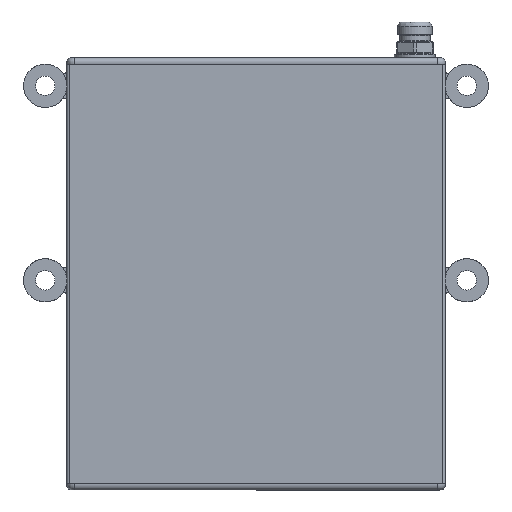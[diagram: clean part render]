
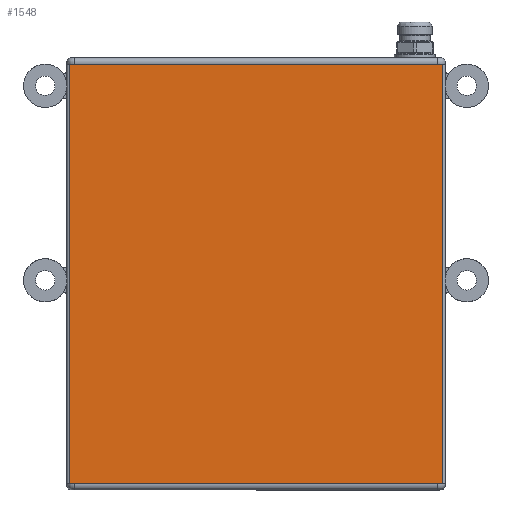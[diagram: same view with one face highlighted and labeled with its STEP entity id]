
A CAD part, left-side view. The second image highlights one B-rep face of the part: STEP entity #1548.
In plain terms, the highlighted planar face has unit normal (-1, 0, 0).
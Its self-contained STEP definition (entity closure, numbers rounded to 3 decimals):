
#141 = EDGE_CURVE ( 'NONE', #4266, #2891, #1718, .T. ) ;
#249 = FACE_OUTER_BOUND ( 'NONE', #4099, .T. ) ;
#389 = CARTESIAN_POINT ( 'NONE',  ( -87.5, -86.5, 194. ) ) ;
#487 = DIRECTION ( 'NONE',  ( 0., -1., 0. ) ) ;
#528 = LINE ( 'NONE', #389, #2120 ) ;
#628 = AXIS2_PLACEMENT_3D ( 'NONE', #4933, #1533, #2971 ) ;
#653 = DIRECTION ( 'NONE',  ( 0., -1., 0. ) ) ;
#669 = LINE ( 'NONE', #1528, #5282 ) ;
#905 = ORIENTED_EDGE ( 'NONE', *, *, #5647, .T. ) ;
#914 = VERTEX_POINT ( 'NONE', #1887 ) ;
#1033 = PLANE ( 'NONE',  #628 ) ;
#1105 = CARTESIAN_POINT ( 'NONE',  ( -87.5, -84., 194. ) ) ;
#1377 = CARTESIAN_POINT ( 'NONE',  ( -87.5, 84., 194. ) ) ;
#1528 = CARTESIAN_POINT ( 'NONE',  ( -87.5, -86.5, 194. ) ) ;
#1533 = DIRECTION ( 'NONE',  ( -1., 0., 0. ) ) ;
#1548 = ADVANCED_FACE ( 'NONE', ( #249 ), #1033, .T. ) ;
#1629 = CARTESIAN_POINT ( 'NONE',  ( -87.5, 86.5, 0. ) ) ;
#1665 = ORIENTED_EDGE ( 'NONE', *, *, #2859, .T. ) ;
#1718 = LINE ( 'NONE', #5436, #2797 ) ;
#1887 = CARTESIAN_POINT ( 'NONE',  ( -87.5, 86.5, 0. ) ) ;
#2064 = ORIENTED_EDGE ( 'NONE', *, *, #3233, .F. ) ;
#2120 = VECTOR ( 'NONE', #3778, 1000. ) ;
#2366 = VECTOR ( 'NONE', #653, 1000. ) ;
#2488 = VERTEX_POINT ( 'NONE', #1377 ) ;
#2510 = VERTEX_POINT ( 'NONE', #4836 ) ;
#2543 = EDGE_CURVE ( 'NONE', #5948, #4266, #5071, .T. ) ;
#2741 = ORIENTED_EDGE ( 'NONE', *, *, #2543, .T. ) ;
#2765 = CARTESIAN_POINT ( 'NONE',  ( -87.5, -86.5, 0. ) ) ;
#2797 = VECTOR ( 'NONE', #4473, 1000. ) ;
#2828 = CARTESIAN_POINT ( 'NONE',  ( -87.5, -86.5, 194. ) ) ;
#2859 = EDGE_CURVE ( 'NONE', #2488, #2510, #528, .T. ) ;
#2887 = VECTOR ( 'NONE', #487, 1000. ) ;
#2891 = VERTEX_POINT ( 'NONE', #2765 ) ;
#2971 = DIRECTION ( 'NONE',  ( 0., 0., 1. ) ) ;
#3233 = EDGE_CURVE ( 'NONE', #2488, #4498, #5659, .T. ) ;
#3409 = CARTESIAN_POINT ( 'NONE',  ( -87.5, -86.5, 0. ) ) ;
#3488 = LINE ( 'NONE', #5375, #3805 ) ;
#3672 = ORIENTED_EDGE ( 'NONE', *, *, #5261, .T. ) ;
#3744 = LINE ( 'NONE', #3409, #2887 ) ;
#3778 = DIRECTION ( 'NONE',  ( 0., 1., 0. ) ) ;
#3805 = VECTOR ( 'NONE', #5322, 1000. ) ;
#3894 = DIRECTION ( 'NONE',  ( 0., -1., 0. ) ) ;
#4036 = ORIENTED_EDGE ( 'NONE', *, *, #141, .T. ) ;
#4095 = VECTOR ( 'NONE', #5578, 1000. ) ;
#4096 = CARTESIAN_POINT ( 'NONE',  ( -87.5, 84., 0. ) ) ;
#4099 = EDGE_LOOP ( 'NONE', ( #4036, #905, #3672, #2064, #1665, #5968, #4947, #2741 ) ) ;
#4255 = LINE ( 'NONE', #1629, #4095 ) ;
#4266 = VERTEX_POINT ( 'NONE', #4854 ) ;
#4473 = DIRECTION ( 'NONE',  ( 0., -1., 0. ) ) ;
#4498 = VERTEX_POINT ( 'NONE', #1105 ) ;
#4572 = CARTESIAN_POINT ( 'NONE',  ( -87.5, -84., 194. ) ) ;
#4790 = VERTEX_POINT ( 'NONE', #2828 ) ;
#4836 = CARTESIAN_POINT ( 'NONE',  ( -87.5, 86.5, 194. ) ) ;
#4854 = CARTESIAN_POINT ( 'NONE',  ( -87.5, -84., 0. ) ) ;
#4927 = EDGE_CURVE ( 'NONE', #914, #5948, #3744, .T. ) ;
#4933 = CARTESIAN_POINT ( 'NONE',  ( -87.5, -86.5, 0. ) ) ;
#4947 = ORIENTED_EDGE ( 'NONE', *, *, #4927, .T. ) ;
#5071 = LINE ( 'NONE', #5793, #6095 ) ;
#5261 = EDGE_CURVE ( 'NONE', #4790, #4498, #669, .T. ) ;
#5282 = VECTOR ( 'NONE', #5403, 1000. ) ;
#5322 = DIRECTION ( 'NONE',  ( 0., 0., 1. ) ) ;
#5375 = CARTESIAN_POINT ( 'NONE',  ( -87.5, -86.5, 0. ) ) ;
#5403 = DIRECTION ( 'NONE',  ( 0., 1., 0. ) ) ;
#5436 = CARTESIAN_POINT ( 'NONE',  ( -87.5, -86.5, 0. ) ) ;
#5578 = DIRECTION ( 'NONE',  ( 0., 0., -1. ) ) ;
#5647 = EDGE_CURVE ( 'NONE', #2891, #4790, #3488, .T. ) ;
#5659 = LINE ( 'NONE', #4572, #2366 ) ;
#5793 = CARTESIAN_POINT ( 'NONE',  ( -87.5, -86.5, 0. ) ) ;
#5948 = VERTEX_POINT ( 'NONE', #4096 ) ;
#5968 = ORIENTED_EDGE ( 'NONE', *, *, #6263, .T. ) ;
#6095 = VECTOR ( 'NONE', #3894, 1000. ) ;
#6263 = EDGE_CURVE ( 'NONE', #2510, #914, #4255, .T. ) ;
